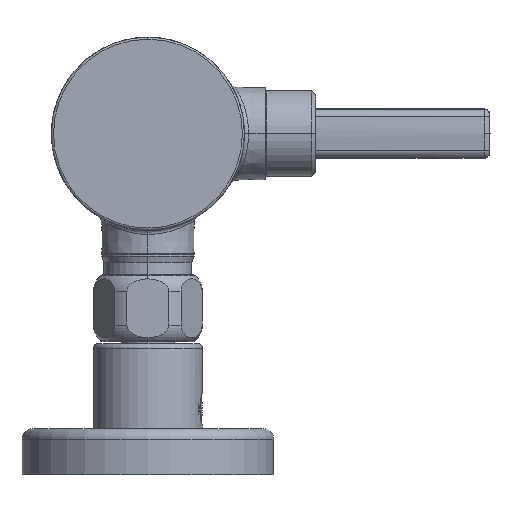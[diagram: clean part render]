
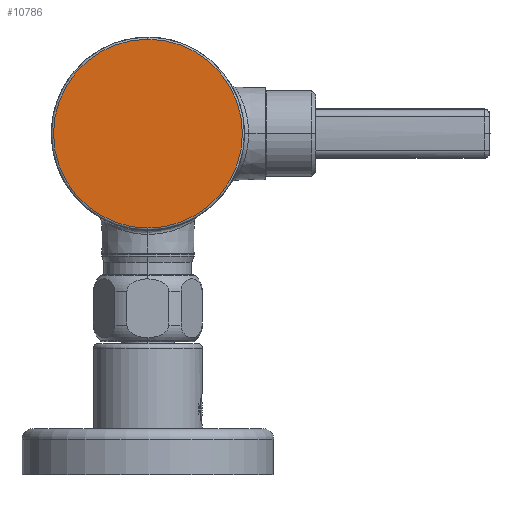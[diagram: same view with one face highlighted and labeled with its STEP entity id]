
A CAD part, left-side view. The second image highlights one B-rep face of the part: STEP entity #10786.
In plain terms, the highlighted planar face has unit normal (-1, 0, 0).
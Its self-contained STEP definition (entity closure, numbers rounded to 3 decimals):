
#1=CARTESIAN_POINT('',(-128.,0.,0.));
#2=DIRECTION('',(-1.,0.,0.));
#3=DIRECTION('',(0.,0.,-1.));
#4=AXIS2_PLACEMENT_3D('',#1,#2,#3);
#6=CARTESIAN_POINT('',(-128.,0.,0.));
#7=DIRECTION('',(-1.,0.,0.));
#8=DIRECTION('',(0.,0.,1.));
#9=AXIS2_PLACEMENT_3D('',#6,#7,#8);
#9829=CARTESIAN_POINT('',(-128.,0.,-22.5));
#9830=CARTESIAN_POINT('',(-128.,0.,22.5));
#9831=VERTEX_POINT('',#9829);
#9832=VERTEX_POINT('',#9830);
#10775=CARTESIAN_POINT('',(-128.,0.,0.));
#10776=DIRECTION('',(1.,0.,0.));
#10777=DIRECTION('',(0.,0.,-1.));
#10778=AXIS2_PLACEMENT_3D('',#10775,#10776,#10777);
#10779=PLANE('',#10778);
#10781=ORIENTED_EDGE('',*,*,#10780,.F.);
#10783=ORIENTED_EDGE('',*,*,#10782,.F.);
#10784=EDGE_LOOP('',(#10781,#10783));
#10785=FACE_OUTER_BOUND('',#10784,.F.);
#10786=ADVANCED_FACE('',(#10785),#10779,.F.);
#5=CIRCLE('',#4,22.5);
#10=CIRCLE('',#9,22.5);
#10780=EDGE_CURVE('',#9831,#9832,#5,.T.);
#10782=EDGE_CURVE('',#9832,#9831,#10,.T.);
